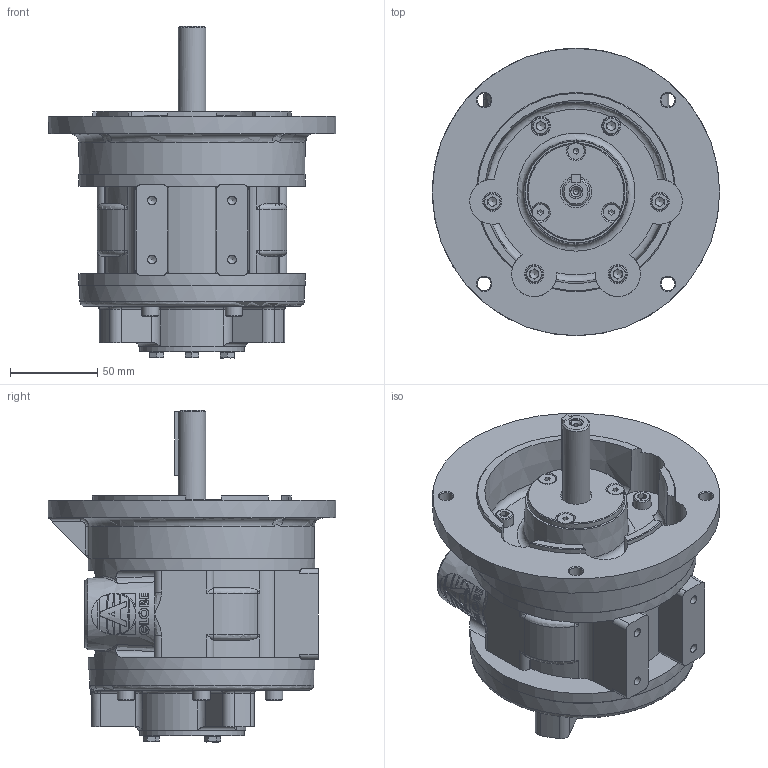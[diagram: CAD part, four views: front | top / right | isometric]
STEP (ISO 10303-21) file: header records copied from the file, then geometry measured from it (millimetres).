
FILE_DESCRIPTION (( 'STEP AP214' ), '1' );
FILE_NAME ('VA6C Defeature + Logo.STEP', '2023-05-23T10:25:08', ( '' ), ( '' ), 'SwSTEP 2.0', 'SolidWorks 2022', '' );
FILE_SCHEMA (( 'AUTOMOTIVE_DESIGN' ));
Length unit declared in the file: millimetre
Products named in the file (1): VA6C Defeature + Logo
Bounding box: 165 x 165 x 190.64 mm (x, y, z)
Volume: 1321472.8 mm3; surface area: 133945.4 mm2
Topology: 1 solids, 1 shells, 732 faces, 1813 edges, 1123 vertices
Faces by surface type: plane 326, bspline 131, cylinder 129, cone 100, torus 39, sphere 7
Full cylindrical faces by diameter (mm): 3 x1, 5 x4, 7.937 x3, 7.938 x1, 8 x4, 9.64 x3, 10 x12, 11 x6, 15.875 x1, 18 x1, 24.117 x2, 28 x1, 56 x1, 60 x1, 128 x2, 129 x1, 130 x2, 165 x1
Entity records: 43820 total; most frequent: CARTESIAN_POINT 24451, ORIENTED_EDGE 3314, DIRECTION 2802, EDGE_CURVE 1657, AXIS2_PLACEMENT_3D 1083, VERTEX_POINT 1070, EDGE_LOOP 883, FACE_OUTER_BOUND 780
